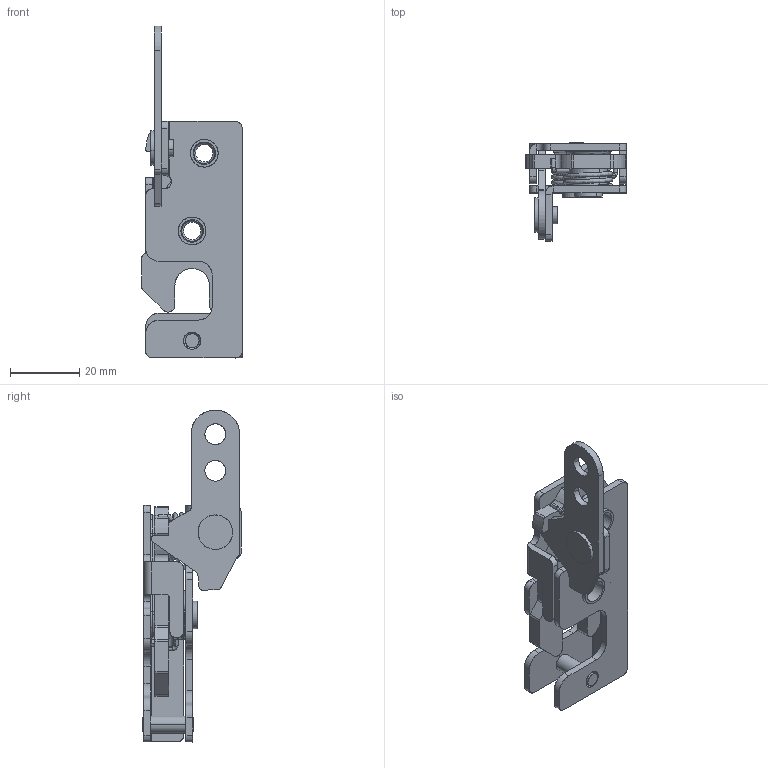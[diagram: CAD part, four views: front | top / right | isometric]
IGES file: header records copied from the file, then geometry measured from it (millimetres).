
Start section: SolidWorks IGES file using analytic representation for surfaces
Global section: file name: D:\Personal\Desktop\DK618-7-Y.IGS; native system: SolidWorks 2018; preprocessor: SolidWorks 2018; author: Administrator; date: 200619.170334; units: millimetre
Bounding box: 29.1 x 28.5 x 96.15 mm (x, y, z)
Surface area: 16723.3 mm2 (no closed solid volume)
Topology: 0 solids, 0 shells, 331 faces, 4570 edges, 4568 vertices
Faces by surface type: revolution 188, bspline 143
